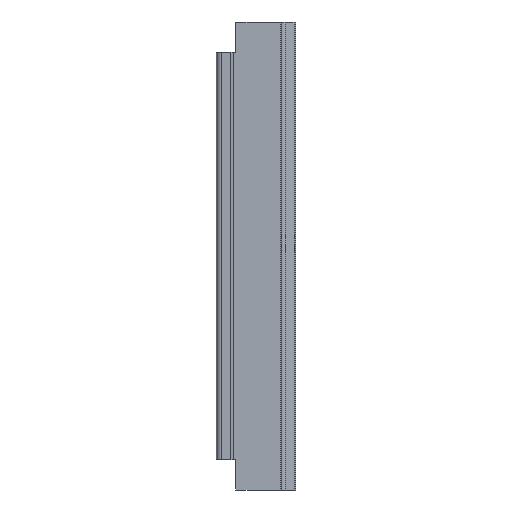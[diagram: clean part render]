
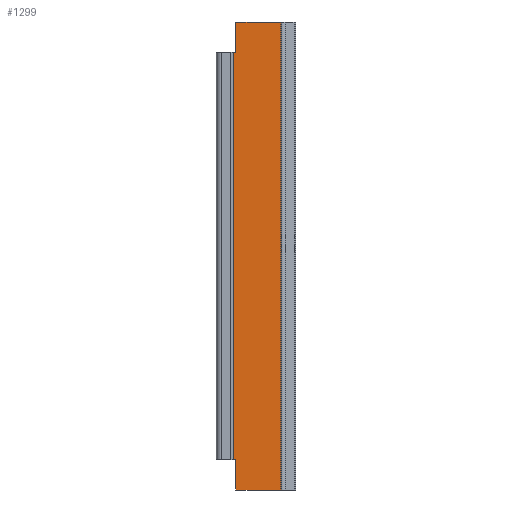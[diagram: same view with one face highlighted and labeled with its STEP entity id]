
A CAD part, left-side view. The second image highlights one B-rep face of the part: STEP entity #1299.
In plain terms, the highlighted planar face has unit normal (-1, 0, 0).
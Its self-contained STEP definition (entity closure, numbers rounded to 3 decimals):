
#59 = VECTOR ( 'NONE', #300, 1000. ) ;
#90 = VERTEX_POINT ( 'NONE', #168 ) ;
#113 = VERTEX_POINT ( 'NONE', #191 ) ;
#115 = VERTEX_POINT ( 'NONE', #193 ) ;
#118 = VERTEX_POINT ( 'NONE', #196 ) ;
#120 = VERTEX_POINT ( 'NONE', #198 ) ;
#123 = VERTEX_POINT ( 'NONE', #201 ) ;
#131 = VERTEX_POINT ( 'NONE', #209 ) ;
#144 = VERTEX_POINT ( 'NONE', #220 ) ;
#168 = CARTESIAN_POINT ( 'NONE',  ( -2.8, -17.7, 531.5 ) ) ;
#191 = CARTESIAN_POINT ( 'NONE',  ( -2.8, -14.928, 36.5 ) ) ;
#193 = CARTESIAN_POINT ( 'NONE',  ( -2.8, -14.928, 531.5 ) ) ;
#196 = CARTESIAN_POINT ( 'NONE',  ( -2.8, -17.7, 0. ) ) ;
#198 = CARTESIAN_POINT ( 'NONE',  ( -2.8, -17.7, 568. ) ) ;
#201 = CARTESIAN_POINT ( 'NONE',  ( -2.8, -72.063, 0. ) ) ;
#209 = CARTESIAN_POINT ( 'NONE',  ( -2.8, -72.063, 568. ) ) ;
#220 = CARTESIAN_POINT ( 'NONE',  ( -2.8, -17.7, 36.5 ) ) ;
#223 = CARTESIAN_POINT ( 'NONE',  ( -2.8, -14.555, 36.5 ) ) ;
#224 = DIRECTION ( 'NONE',  ( 0., -1., 0. ) ) ;
#243 = CARTESIAN_POINT ( 'NONE',  ( -2.8, -72.063, 568. ) ) ;
#249 = DIRECTION ( 'NONE',  ( 0., 0., 1. ) ) ;
#250 = CARTESIAN_POINT ( 'NONE',  ( -2.8, -14.555, 531.5 ) ) ;
#251 = DIRECTION ( 'NONE',  ( 0., 1., 0. ) ) ;
#276 = CARTESIAN_POINT ( 'NONE',  ( -2.8, -17.7, 568. ) ) ;
#281 = CARTESIAN_POINT ( 'NONE',  ( -2.8, -14.555, 0. ) ) ;
#285 = DIRECTION ( 'NONE',  ( 0., 0., -1. ) ) ;
#290 = CARTESIAN_POINT ( 'NONE',  ( -2.8, -14.928, 568. ) ) ;
#291 = DIRECTION ( 'NONE',  ( 0., 0., -1. ) ) ;
#292 = CARTESIAN_POINT ( 'NONE',  ( -2.8, -17.7, 568. ) ) ;
#293 = DIRECTION ( 'NONE',  ( 0., 0., -1. ) ) ;
#300 = DIRECTION ( 'NONE',  ( 0., -1., 0. ) ) ;
#358 = EDGE_CURVE ( 'NONE', #113, #144, #940, .T. ) ;
#369 = EDGE_CURVE ( 'NONE', #123, #131, #917, .T. ) ;
#370 = EDGE_CURVE ( 'NONE', #90, #115, #907, .T. ) ;
#385 = EDGE_CURVE ( 'NONE', #120, #90, #927, .T. ) ;
#388 = EDGE_CURVE ( 'NONE', #115, #113, #976, .T. ) ;
#389 = EDGE_CURVE ( 'NONE', #144, #118, #966, .T. ) ;
#392 = EDGE_CURVE ( 'NONE', #118, #123, #969, .T. ) ;
#480 = ORIENTED_EDGE ( 'NONE', *, *, #358, .T. ) ;
#481 = ORIENTED_EDGE ( 'NONE', *, *, #389, .T. ) ;
#482 = ORIENTED_EDGE ( 'NONE', *, *, #392, .T. ) ;
#561 = EDGE_CURVE ( 'NONE', #120, #131, #712, .T. ) ;
#641 = AXIS2_PLACEMENT_3D ( 'NONE', #1174, #1180, #1181 ) ;
#712 = LINE ( 'NONE', #987, #714 ) ;
#714 = VECTOR ( 'NONE', #988, 1000. ) ;
#734 = ORIENTED_EDGE ( 'NONE', *, *, #370, .T. ) ;
#736 = ORIENTED_EDGE ( 'NONE', *, *, #561, .F. ) ;
#797 = ORIENTED_EDGE ( 'NONE', *, *, #369, .T. ) ;
#832 = EDGE_LOOP ( 'NONE', ( #843, #734, #841, #480, #481, #482, #797, #736 ) ) ;
#841 = ORIENTED_EDGE ( 'NONE', *, *, #388, .T. ) ;
#843 = ORIENTED_EDGE ( 'NONE', *, *, #385, .T. ) ;
#845 = FACE_OUTER_BOUND ( 'NONE', #832, .T. ) ;
#906 = VECTOR ( 'NONE', #251, 1000. ) ;
#907 = LINE ( 'NONE', #250, #906 ) ;
#908 = VECTOR ( 'NONE', #249, 1000. ) ;
#917 = LINE ( 'NONE', #243, #908 ) ;
#927 = LINE ( 'NONE', #276, #929 ) ;
#929 = VECTOR ( 'NONE', #285, 1000. ) ;
#940 = LINE ( 'NONE', #223, #942 ) ;
#942 = VECTOR ( 'NONE', #224, 1000. ) ;
#965 = VECTOR ( 'NONE', #291, 1000. ) ;
#966 = LINE ( 'NONE', #292, #967 ) ;
#967 = VECTOR ( 'NONE', #293, 1000. ) ;
#969 = LINE ( 'NONE', #281, #59 ) ;
#976 = LINE ( 'NONE', #290, #965 ) ;
#987 = CARTESIAN_POINT ( 'NONE',  ( -2.8, -14.555, 568. ) ) ;
#988 = DIRECTION ( 'NONE',  ( 0., -1., 0. ) ) ;
#1171 = PLANE ( 'NONE',  #641 ) ;
#1174 = CARTESIAN_POINT ( 'NONE',  ( -2.8, -14.555, 568. ) ) ;
#1180 = DIRECTION ( 'NONE',  ( 1., 0., 0. ) ) ;
#1181 = DIRECTION ( 'NONE',  ( 0., 1., 0. ) ) ;
#1299 = ADVANCED_FACE ( 'NONE', ( #845 ), #1171, .F. ) ;
